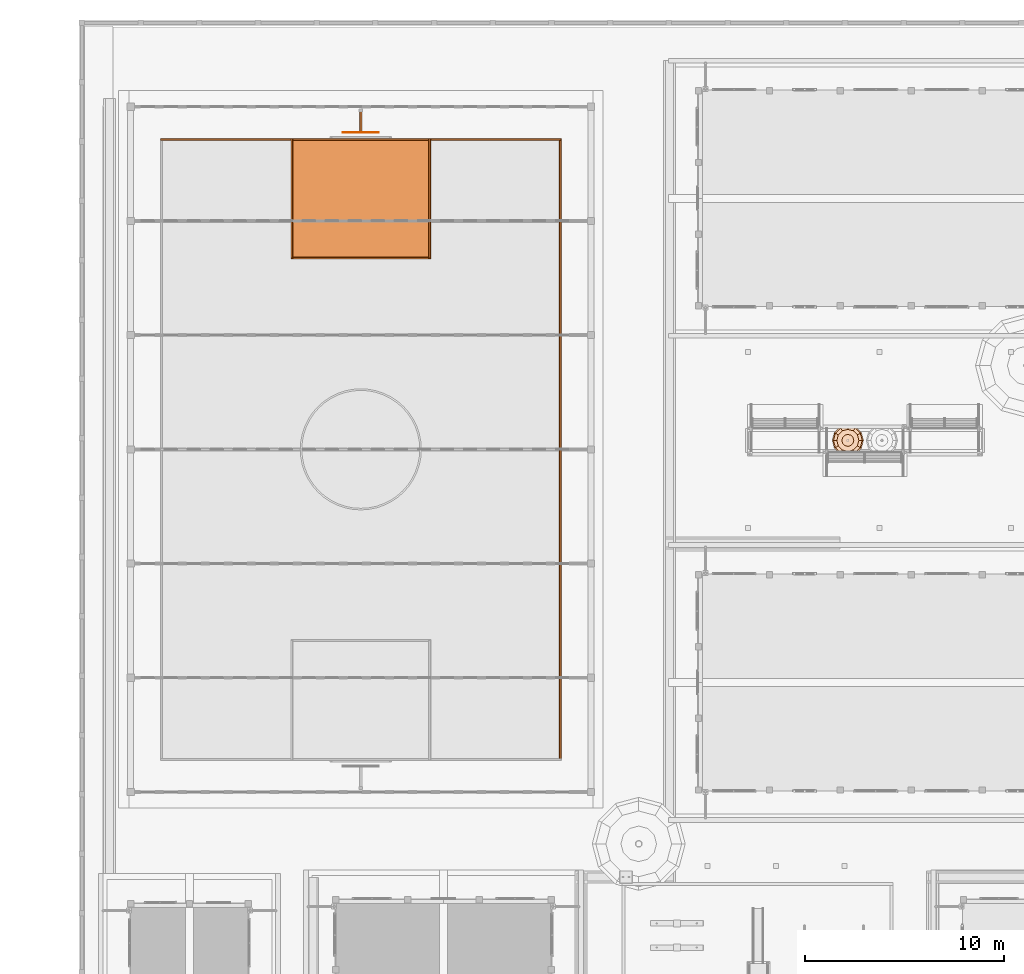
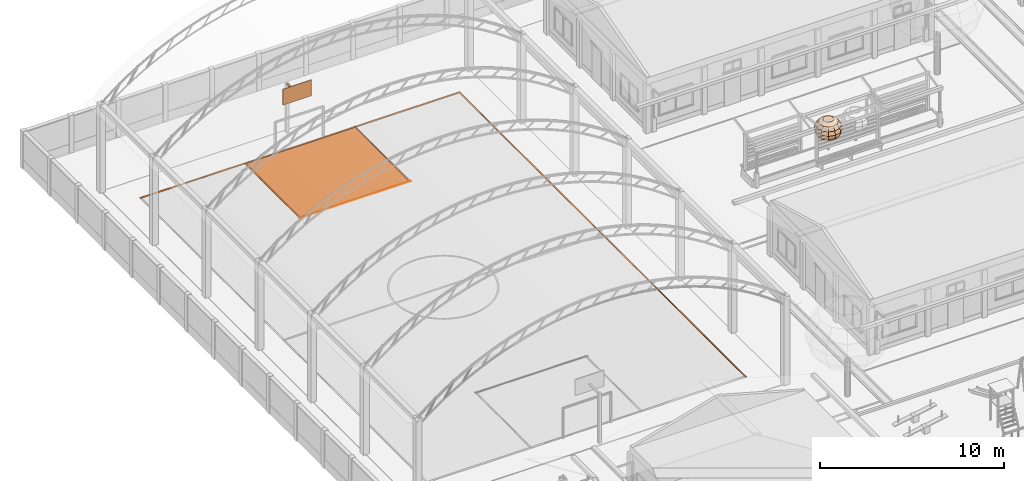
# One storey, part 171 of 177: 8 proxies, 1 geographic element.
"""IFC4 building model written with IfcOpenShell, lengths in metres."""

from ifc_helpers import new_model, si_unit, origin, origin_with_axes, place, context, subcontext, project, spatial, triangles, element, save


model = new_model("IFC4")

# Units and contexts
model_context = context("Model", 3, precision=1e-05, world=origin_with_axes())
body_context = subcontext(model_context, "Body", "Model", "MODEL_VIEW")
ifc_project = project(units=[si_unit("LENGTHUNIT", "METRE"), si_unit("AREAUNIT", "SQUARE_METRE"), si_unit("VOLUMEUNIT", "CUBIC_METRE"), si_unit("PLANEANGLEUNIT", "RADIAN")], contexts=[model_context])

# Site, building, storey
site_placement = place(None, origin_with_axes())
site = spatial("IfcSite", under=ifc_project, at=site_placement, Name="Predio Los Mangos - Morales, San Martín", CompositionType="ELEMENT")
building_placement = place(site_placement, origin())
building = spatial("IfcBuilding", under=site, at=building_placement, Name="Hogar de Refugio Temporal", CompositionType="ELEMENT")
storey_placement = place(building_placement, origin())
storey = spatial("IfcBuildingStorey", under=building, at=storey_placement, Name="NIVEL 1 (NPT +0.00)", CompositionType="ELEMENT", Elevation=0.0)

# Proxies
proxy_1_placement = place(storey_placement, origin())
element("IfcBuildingElementProxy", 1, at=proxy_1_placement, inside=storey, Name="linea_cancha", ObjectType="Losa deportiva y vía", PredefinedType="NOTDEFINED", context=body_context, shape_type="Tessellation", body=[
    triangles([(5.0, 125.32, 0.125), (25.1, 125.32, 0.125), (25.1, 125.4, 0.125), (5.0, 125.4, 0.125), (5.0, 125.32, 0.127), (25.1, 125.32, 0.127), (25.1, 125.4, 0.127), (5.0, 125.4, 0.127)], [[1, 4, 3], [1, 3, 2], [5, 6, 7], [5, 7, 8], [1, 2, 6], [1, 6, 5], [2, 3, 7], [2, 7, 6], [3, 4, 8], [3, 8, 7], [4, 1, 5], [4, 5, 8]]),
])
proxy_2_placement = place(storey_placement, origin())
element("IfcBuildingElementProxy", 2, at=proxy_2_placement, inside=storey, Name="linea_cancha", ObjectType="Losa deportiva y vía", PredefinedType="NOTDEFINED", context=body_context, shape_type="Tessellation", body=[
    triangles([(25.02, 94.2, 0.125), (25.1, 94.2, 0.125), (25.1, 125.4, 0.125), (25.02, 125.4, 0.125), (25.02, 94.2, 0.127), (25.1, 94.2, 0.127), (25.1, 125.4, 0.127), (25.02, 125.4, 0.127)], [[1, 4, 3], [1, 3, 2], [5, 6, 7], [5, 7, 8], [1, 2, 6], [1, 6, 5], [2, 3, 7], [2, 7, 6], [3, 4, 8], [3, 8, 7], [4, 1, 5], [4, 5, 8]]),
])
proxy_3_placement = place(storey_placement, origin())
element("IfcBuildingElementProxy", 3, at=proxy_3_placement, inside=storey, Name="area", ObjectType="Losa deportiva y vía", PredefinedType="NOTDEFINED", context=body_context, shape_type="Tessellation", body=[
    triangles([(11.55, 119.4, 0.125), (18.55, 119.4, 0.125), (18.55, 125.4, 0.125), (11.55, 125.4, 0.125), (11.55, 119.4, 0.127), (18.55, 119.4, 0.127), (18.55, 125.4, 0.127), (11.55, 125.4, 0.127)], [[1, 4, 3], [1, 3, 2], [5, 6, 7], [5, 7, 8], [1, 2, 6], [1, 6, 5], [2, 3, 7], [2, 7, 6], [3, 4, 8], [3, 8, 7], [4, 1, 5], [4, 5, 8]]),
])
proxy_4_placement = place(storey_placement, origin())
element("IfcBuildingElementProxy", 4, at=proxy_4_placement, inside=storey, Name="linea_area", ObjectType="Losa deportiva y vía", PredefinedType="NOTDEFINED", context=body_context, shape_type="Tessellation", body=[
    triangles([(11.55, 119.4, 0.127), (11.63, 119.4, 0.127), (11.63, 125.4, 0.127), (11.55, 125.4, 0.127), (11.55, 119.4, 0.129), (11.63, 119.4, 0.129), (11.63, 125.4, 0.129), (11.55, 125.4, 0.129)], [[1, 4, 3], [1, 3, 2], [5, 6, 7], [5, 7, 8], [1, 2, 6], [1, 6, 5], [2, 3, 7], [2, 7, 6], [3, 4, 8], [3, 8, 7], [4, 1, 5], [4, 5, 8]]),
])
proxy_5_placement = place(storey_placement, origin())
element("IfcBuildingElementProxy", 5, at=proxy_5_placement, inside=storey, Name="linea_area", ObjectType="Losa deportiva y vía", PredefinedType="NOTDEFINED", context=body_context, shape_type="Tessellation", body=[
    triangles([(18.47, 119.4, 0.127), (18.55, 119.4, 0.127), (18.55, 125.4, 0.127), (18.47, 125.4, 0.127), (18.47, 119.4, 0.129), (18.55, 119.4, 0.129), (18.55, 125.4, 0.129), (18.47, 125.4, 0.129)], [[1, 4, 3], [1, 3, 2], [5, 6, 7], [5, 7, 8], [1, 2, 6], [1, 6, 5], [2, 3, 7], [2, 7, 6], [3, 4, 8], [3, 8, 7], [4, 1, 5], [4, 5, 8]]),
])
proxy_6_placement = place(storey_placement, origin())
element("IfcBuildingElementProxy", 6, at=proxy_6_placement, inside=storey, Name="linea_area", ObjectType="Losa deportiva y vía", PredefinedType="NOTDEFINED", context=body_context, shape_type="Tessellation", body=[
    triangles([(11.55, 119.36, 0.127), (18.55, 119.36, 0.127), (18.55, 119.44, 0.127), (11.55, 119.44, 0.127), (11.55, 119.36, 0.129), (18.55, 119.36, 0.129), (18.55, 119.44, 0.129), (11.55, 119.44, 0.129)], [[1, 4, 3], [1, 3, 2], [5, 6, 7], [5, 7, 8], [1, 2, 6], [1, 6, 5], [2, 3, 7], [2, 7, 6], [3, 4, 8], [3, 8, 7], [4, 1, 5], [4, 5, 8]]),
])
proxy_7_placement = place(storey_placement, origin())
element("IfcBuildingElementProxy", 7, at=proxy_7_placement, inside=storey, Name="tablero", ObjectType="Losa deportiva y vía", PredefinedType="NOTDEFINED", context=body_context, shape_type="Tessellation", body=[
    triangles([(14.15, 125.68, 2.9), (15.95, 125.68, 2.9), (15.95, 125.72, 2.9), (14.15, 125.72, 2.9), (14.15, 125.68, 3.95), (15.95, 125.68, 3.95), (15.95, 125.72, 3.95), (14.15, 125.72, 3.95)], [[1, 4, 3], [1, 3, 2], [5, 6, 7], [5, 7, 8], [1, 2, 6], [1, 6, 5], [2, 3, 7], [2, 7, 6], [3, 4, 8], [3, 8, 7], [4, 1, 5], [4, 5, 8]]),
])
proxy_8_placement = place(storey_placement, origin())
element("IfcBuildingElementProxy", 8, at=proxy_8_placement, inside=storey, Name="brazo", ObjectType="Losa deportiva y vía", PredefinedType="NOTDEFINED", context=body_context, shape_type="Tessellation", body=[
    triangles([(15.0, 125.7, 3.3), (15.1, 125.7, 3.3), (15.1, 126.8, 3.3), (15.0, 126.8, 3.3), (15.0, 125.7, 3.4), (15.1, 125.7, 3.4), (15.1, 126.8, 3.4), (15.0, 126.8, 3.4)], [[1, 4, 3], [1, 3, 2], [5, 6, 7], [5, 7, 8], [1, 2, 6], [1, 6, 5], [2, 3, 7], [2, 7, 6], [3, 4, 8], [3, 8, 7], [4, 1, 5], [4, 5, 8]]),
])

# Geographic element
geographic_element_placement = place(storey_placement, origin())
element("IfcGeographicElement", 9, at=geographic_element_placement, inside=storey, Name="arbol_copa", ObjectType="Árbol", PredefinedType="NOTDEFINED", context=body_context, shape_type="Tessellation", body=[
    triangles([(39.495, 110.25, 2.5172), (39.495, 110.25, 2.5172), (39.495, 110.25, 2.5172), (39.495, 110.25, 2.5172), (39.495, 110.25, 2.5172), (39.495, 110.25, 2.5172), (39.495, 110.25, 2.5172), (39.495, 110.25, 2.5172), (39.495, 110.25, 2.5172), (39.495, 110.25, 2.5172), (39.495, 110.25, 2.5172), (39.495, 110.25, 2.5172), (39.7943, 110.25, 2.4666), (39.7542, 110.3996, 2.4666), (39.6446, 110.5092, 2.4666), (39.495, 110.5493, 2.4666), (39.3454, 110.5092, 2.4666), (39.2358, 110.3996, 2.4666), (39.1957, 110.25, 2.4666), (39.2358, 110.1004, 2.4666), (39.3454, 109.9908, 2.4666), (39.495, 109.9507, 2.4666), (39.6446, 109.9908, 2.4666), (39.7542, 110.1004, 2.4666), (40.048, 110.25, 2.3225), (39.9739, 110.5265, 2.3225), (39.7715, 110.7289, 2.3225), (39.495, 110.803, 2.3225), (39.2185, 110.7289, 2.3225), (39.0161, 110.5265, 2.3225), (38.942, 110.25, 2.3225), (39.0161, 109.9735, 2.3225), (39.2185, 109.7711, 2.3225), (39.495, 109.697, 2.3225), (39.7715, 109.7711, 2.3225), (39.9739, 109.9735, 2.3225), (40.2175, 110.25, 2.1069), (40.1207, 110.6112, 2.1069), (39.8562, 110.8757, 2.1069), (39.495, 110.9725, 2.1069), (39.1338, 110.8757, 2.1069), (38.8693, 110.6112, 2.1069), (38.7725, 110.25, 2.1069), (38.8693, 109.8888, 2.1069), (39.1338, 109.6243, 2.1069), (39.495, 109.5275, 2.1069), (39.8562, 109.6243, 2.1069), (40.1207, 109.8888, 2.1069), (40.277, 110.25, 1.8525), (40.1722, 110.641, 1.8525), (39.886, 110.9272, 1.8525), (39.495, 111.032, 1.8525), (39.104, 110.9272, 1.8525), (38.8178, 110.641, 1.8525), (38.713, 110.25, 1.8525), (38.8178, 109.859, 1.8525), (39.104, 109.5728, 1.8525), (39.495, 109.468, 1.8525), (39.886, 109.5728, 1.8525), (40.1722, 109.859, 1.8525), (40.2175, 110.25, 1.5981), (40.1207, 110.6112, 1.5981), (39.8562, 110.8757, 1.5981), (39.495, 110.9725, 1.5981), (39.1338, 110.8757, 1.5981), (38.8693, 110.6112, 1.5981), (38.7725, 110.25, 1.5981), (38.8693, 109.8888, 1.5981), (39.1338, 109.6243, 1.5981), (39.495, 109.5275, 1.5981), (39.8562, 109.6243, 1.5981), (40.1207, 109.8888, 1.5981), (40.048, 110.25, 1.3825), (39.9739, 110.5265, 1.3825), (39.7715, 110.7289, 1.3825), (39.495, 110.803, 1.3825), (39.2185, 110.7289, 1.3825), (39.0161, 110.5265, 1.3825), (38.942, 110.25, 1.3825), (39.0161, 109.9735, 1.3825), (39.2185, 109.7711, 1.3825), (39.495, 109.697, 1.3825), (39.7715, 109.7711, 1.3825), (39.9739, 109.9735, 1.3825), (39.7943, 110.25, 1.2384), (39.7542, 110.3996, 1.2384), (39.6446, 110.5092, 1.2384), (39.495, 110.5493, 1.2384), (39.3454, 110.5092, 1.2384), (39.2358, 110.3996, 1.2384), (39.1957, 110.25, 1.2384), (39.2358, 110.1004, 1.2384), (39.3454, 109.9908, 1.2384), (39.495, 109.9507, 1.2384), (39.6446, 109.9908, 1.2384), (39.7542, 110.1004, 1.2384), (39.495, 110.25, 1.1878), (39.495, 110.25, 1.1878), (39.495, 110.25, 1.1878), (39.495, 110.25, 1.1878), (39.495, 110.25, 1.1878), (39.495, 110.25, 1.1878), (39.495, 110.25, 1.1878), (39.495, 110.25, 1.1878), (39.495, 110.25, 1.1878), (39.495, 110.25, 1.1878), (39.495, 110.25, 1.1878), (39.495, 110.25, 1.1878)], [[1, 2, 14], [1, 14, 13], [2, 3, 15], [2, 15, 14], [3, 4, 16], [3, 16, 15], [4, 5, 17], [4, 17, 16], [5, 6, 18], [5, 18, 17], [6, 7, 19], [6, 19, 18], [7, 8, 20], [7, 20, 19], [8, 9, 21], [8, 21, 20], [9, 10, 22], [9, 22, 21], [10, 11, 23], [10, 23, 22], [11, 12, 24], [11, 24, 23], [12, 1, 13], [12, 13, 24], [13, 14, 26], [13, 26, 25], [14, 15, 27], [14, 27, 26], [15, 16, 28], [15, 28, 27], [16, 17, 29], [16, 29, 28], [17, 18, 30], [17, 30, 29], [18, 19, 31], [18, 31, 30], [19, 20, 32], [19, 32, 31], [20, 21, 33], [20, 33, 32], [21, 22, 34], [21, 34, 33], [22, 23, 35], [22, 35, 34], [23, 24, 36], [23, 36, 35], [24, 13, 25], [24, 25, 36], [25, 26, 38], [25, 38, 37], [26, 27, 39], [26, 39, 38], [27, 28, 40], [27, 40, 39], [28, 29, 41], [28, 41, 40], [29, 30, 42], [29, 42, 41], [30, 31, 43], [30, 43, 42], [31, 32, 44], [31, 44, 43], [32, 33, 45], [32, 45, 44], [33, 34, 46], [33, 46, 45], [34, 35, 47], [34, 47, 46], [35, 36, 48], [35, 48, 47], [36, 25, 37], [36, 37, 48], [37, 38, 50], [37, 50, 49], [38, 39, 51], [38, 51, 50], [39, 40, 52], [39, 52, 51], [40, 41, 53], [40, 53, 52], [41, 42, 54], [41, 54, 53], [42, 43, 55], [42, 55, 54], [43, 44, 56], [43, 56, 55], [44, 45, 57], [44, 57, 56], [45, 46, 58], [45, 58, 57], [46, 47, 59], [46, 59, 58], [47, 48, 60], [47, 60, 59], [48, 37, 49], [48, 49, 60], [49, 50, 62], [49, 62, 61], [50, 51, 63], [50, 63, 62], [51, 52, 64], [51, 64, 63], [52, 53, 65], [52, 65, 64], [53, 54, 66], [53, 66, 65], [54, 55, 67], [54, 67, 66], [55, 56, 68], [55, 68, 67], [56, 57, 69], [56, 69, 68], [57, 58, 70], [57, 70, 69], [58, 59, 71], [58, 71, 70], [59, 60, 72], [59, 72, 71], [60, 49, 61], [60, 61, 72], [61, 62, 74], [61, 74, 73], [62, 63, 75], [62, 75, 74], [63, 64, 76], [63, 76, 75], [64, 65, 77], [64, 77, 76], [65, 66, 78], [65, 78, 77], [66, 67, 79], [66, 79, 78], [67, 68, 80], [67, 80, 79], [68, 69, 81], [68, 81, 80], [69, 70, 82], [69, 82, 81], [70, 71, 83], [70, 83, 82], [71, 72, 84], [71, 84, 83], [72, 61, 73], [72, 73, 84], [73, 74, 86], [73, 86, 85], [74, 75, 87], [74, 87, 86], [75, 76, 88], [75, 88, 87], [76, 77, 89], [76, 89, 88], [77, 78, 90], [77, 90, 89], [78, 79, 91], [78, 91, 90], [79, 80, 92], [79, 92, 91], [80, 81, 93], [80, 93, 92], [81, 82, 94], [81, 94, 93], [82, 83, 95], [82, 95, 94], [83, 84, 96], [83, 96, 95], [84, 73, 85], [84, 85, 96], [85, 86, 98], [85, 98, 97], [86, 87, 99], [86, 99, 98], [87, 88, 100], [87, 100, 99], [88, 89, 101], [88, 101, 100], [89, 90, 102], [89, 102, 101], [90, 91, 103], [90, 103, 102], [91, 92, 104], [91, 104, 103], [92, 93, 105], [92, 105, 104], [93, 94, 106], [93, 106, 105], [94, 95, 107], [94, 107, 106], [95, 96, 108], [95, 108, 107], [96, 85, 97], [96, 97, 108]]),
])

save(model, "model.ifc")
